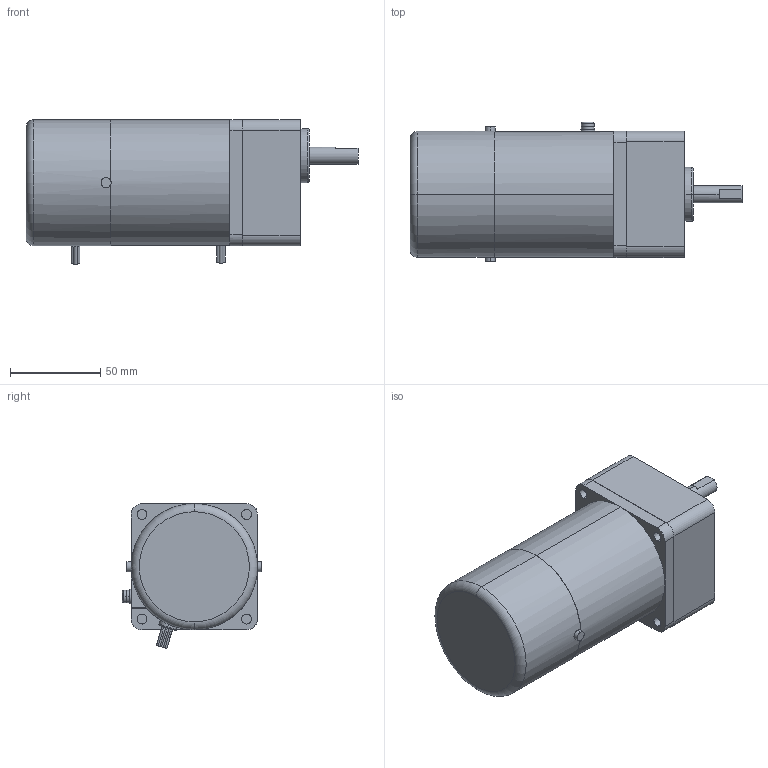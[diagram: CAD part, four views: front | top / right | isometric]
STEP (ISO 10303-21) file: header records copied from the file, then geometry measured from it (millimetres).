
FILE_DESCRIPTION(('starvars output'),'2;1');
FILE_NAME('3RK15GN-CW2ME _ 3GN6SA.stp','14:07:46 2015/05/11',( 'Thomas Industrial Network Germany GmbH'),( 'Thomas Industrial Network Germany GmbH'),'unknown preprocess','ACIS' ,'unknown authorization');
FILE_SCHEMA(('AUTOMOTIVE_DESIGN_CC2 {UNKNOWN IMPLEMENTATION LEVEL}'));
Length unit declared in the file: millimetre
Products named in the file (1): PRODUCT_ID_2013
Bounding box: 184 x 77.4 x 80.26 mm (x, y, z)
Volume: 619748.6 mm3; surface area: 50196.1 mm2
Topology: 1 solids, 1 shells, 141 faces, 326 edges, 211 vertices
Faces by surface type: cylinder 72, plane 59, torus 10
Entity records: 4905 total; most frequent: CARTESIAN_POINT 841, ORIENTED_EDGE 654, DIRECTION 520, EDGE_CURVE 326, VERTEX_POINT 211, AXIS2_PLACEMENT_3D 197, EDGE_LOOP 165, FACE_BOUND 165
